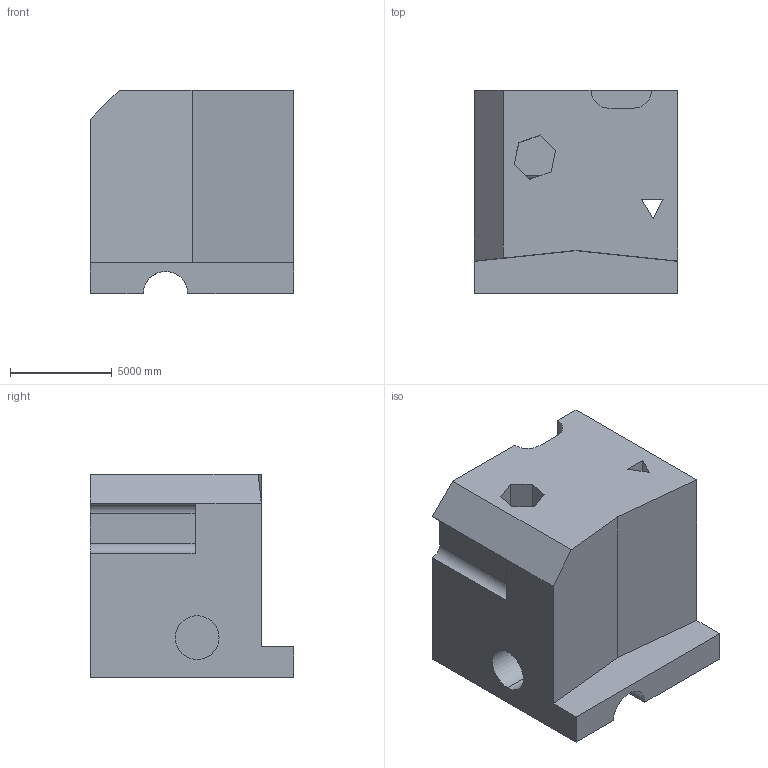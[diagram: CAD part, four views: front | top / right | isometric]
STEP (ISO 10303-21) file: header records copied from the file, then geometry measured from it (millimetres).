
FILE_DESCRIPTION (( 'STEP AP203' ), '1' );
FILE_NAME ('1886.STEP', '2022-08-19T13:58:50', ( 'user' ), ( '' ), 'SwSTEP 2.0', 'SolidWorks 2021', '' );
FILE_SCHEMA (( 'CONFIG_CONTROL_DESIGN' ));
Length unit declared in the file: centimetre
Products named in the file (1): 1886
Bounding box: 10000 x 10000 x 10000 mm (x, y, z)
Volume: 726248127427.4 mm3; surface area: 731129840.5 mm2
Topology: 1 solids, 1 shells, 41 faces, 117 edges, 78 vertices
Faces by surface type: plane 33, cylinder 8
Entity records: 1650 total; most frequent: CARTESIAN_POINT 485, ORIENTED_EDGE 234, DIRECTION 211, EDGE_CURVE 117, LINE 95, VECTOR 95, VERTEX_POINT 78, AXIS2_PLACEMENT_3D 58
